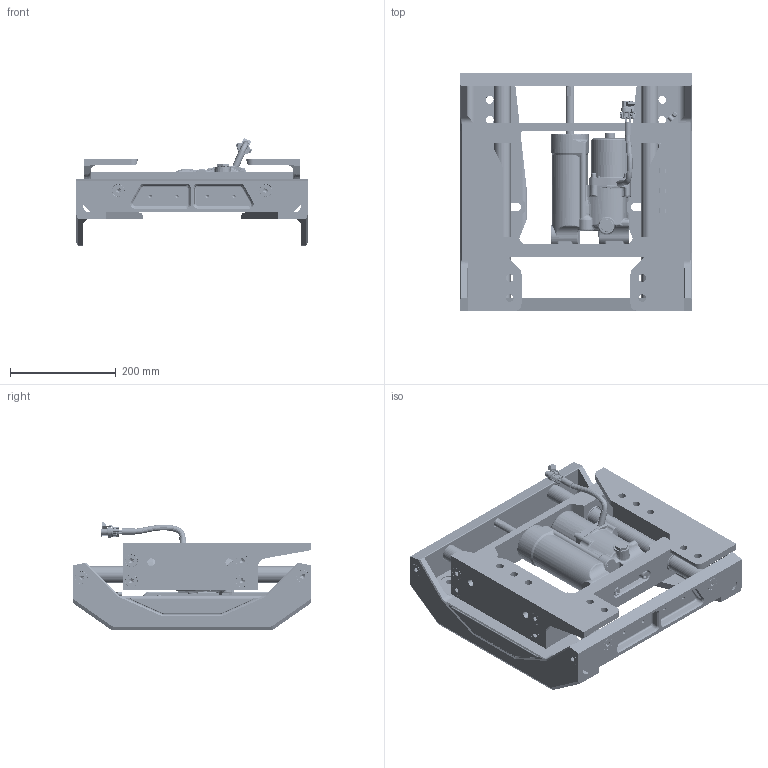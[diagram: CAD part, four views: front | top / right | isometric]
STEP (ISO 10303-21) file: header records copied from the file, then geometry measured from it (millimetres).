
FILE_DESCRIPTION((''),'2;1');
FILE_NAME('470104_ASM','2018-04-27T13:39:00',('dbaros'),(''),'CREO PARAMETRIC BY PTC INC, 2017260','CREO PARAMETRIC BY PTC INC, 2017260','');
FILE_SCHEMA(('CONFIG_CONTROL_DESIGN'));
Length unit declared in the file: inch
Products named in the file (83): 469713; 469717; 469718; 469714; 469014; 550305; 083521; 431727; 451201; 791025; 451040; 451311; 004923; 550308_AF0; 550307; 550337; 550500_ASM; 451306; 550315; 451640_COMPRESSED; 451026; 211039; 452008_AF0; 455082; 548761; 451124; 872018; 791222; 872019; 469104; 469140; 451701; 014624; 211133; 452720; 454180; 469110; 469100_ASM; 552055; 798021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
Assembly tree (145 placements, depth 4):
  470104_ASM
    469713
    469717
    469718
    469714
    469300_ASM
      469014
      550305  x4
      083521
      431727
      451201
      791025
      451040
      451311  x2
      004923  x2
      550500_ASM  x2
        550308_AF0
        550307
        550337
      451306  x2
      550315  x2
      451640_COMPRESSED  x2
      451026
      211039
      452008_AF0
      455082  x4
      548761  x4
      469100_ASM
        451124
        872018
        791222
        872019
        469104
        469140
        451701  x2
        014624
        211133
        452720
        454180
        469110
      798075_ASM
        552055
        798021
        452525
        550324  x2
        551112
        550530  x2
        550525  x2
        251625  x2
        004622  x2
      550530  x2
      799061  x2
      451222
      451001
      480011
      469620
      998837
      950722
      305458
      651037_JP  x2
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Bounding box: 438.15 x 450.85 x 204.11 mm (x, y, z)
Volume: 6724782.8 mm3; surface area: 1436912.3 mm2
Topology: 140 solids, 141 shells, 6832 faces, 16119 edges, 9718 vertices
Faces by surface type: cylinder 1958, plane 1914, cone 1081, torus 879, bspline 704, extrusion 205, sphere 91
Entity records: 211438 total; most frequent: CARTESIAN_POINT 83520, ORIENTED_EDGE 26538, DIRECTION 26262, EDGE_CURVE 13269, AXIS2_PLACEMENT_3D 10453, VERTEX_POINT 8084, EDGE_LOOP 6057, FACE_OUTER_BOUND 5558
